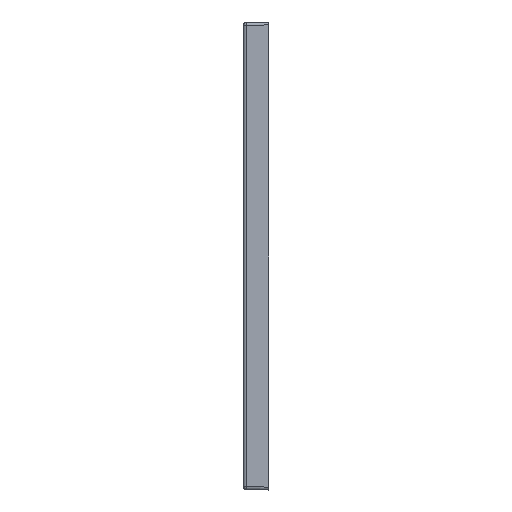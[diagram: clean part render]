
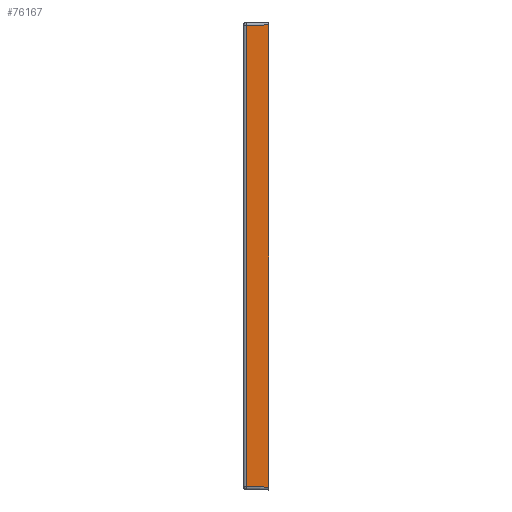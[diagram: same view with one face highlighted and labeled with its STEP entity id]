
A CAD part, left-side view. The second image highlights one B-rep face of the part: STEP entity #76167.
In plain terms, the highlighted planar face has unit normal (-1, 0.018, 0).
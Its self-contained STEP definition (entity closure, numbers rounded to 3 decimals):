
#418 = EDGE_LOOP ( 'NONE', ( #28145, #108340, #21647, #96098 ) ) ;
#2779 = EDGE_CURVE ( 'NONE', #80315, #105835, #44677, .T. ) ;
#9671 = VECTOR ( 'NONE', #15006, 1000. ) ;
#12824 = EDGE_CURVE ( 'NONE', #105835, #86036, #28760, .T. ) ;
#15006 = DIRECTION ( 'NONE',  ( 0., 0., 1. ) ) ;
#18755 = EDGE_CURVE ( 'NONE', #86036, #32925, #24372, .T. ) ;
#21647 = ORIENTED_EDGE ( 'NONE', *, *, #23438, .T. ) ;
#23438 = EDGE_CURVE ( 'NONE', #32925, #80315, #63419, .T. ) ;
#24372 = LINE ( 'NONE', #59562, #38796 ) ;
#27338 = CARTESIAN_POINT ( 'NONE',  ( -500.751, -43., 190.751 ) ) ;
#28145 = ORIENTED_EDGE ( 'NONE', *, *, #12824, .T. ) ;
#28760 = LINE ( 'NONE', #53010, #49385 ) ;
#32925 = VERTEX_POINT ( 'NONE', #108783 ) ;
#38796 = VECTOR ( 'NONE', #57937, 1000. ) ;
#42802 = FACE_OUTER_BOUND ( 'NONE', #418, .T. ) ;
#44677 = LINE ( 'NONE', #53445, #107120 ) ;
#47248 = CARTESIAN_POINT ( 'NONE',  ( -500.086, -4.913, -600.087 ) ) ;
#48898 = DIRECTION ( 'NONE',  ( -1., 0.017, 0. ) ) ;
#49385 = VECTOR ( 'NONE', #54621, 1000. ) ;
#51645 = AXIS2_PLACEMENT_3D ( 'NONE', #99506, #48898, #82479 ) ;
#53010 = CARTESIAN_POINT ( 'NONE',  ( -500.086, -4.913, -605. ) ) ;
#53445 = CARTESIAN_POINT ( 'NONE',  ( -499.758, 13.868, 189.759 ) ) ;
#54621 = DIRECTION ( 'NONE',  ( 0., 0., -1. ) ) ;
#57937 = DIRECTION ( 'NONE',  ( -0.017, -1., -0.017 ) ) ;
#59562 = CARTESIAN_POINT ( 'NONE',  ( -500.002, -0.087, -600.002 ) ) ;
#63419 = LINE ( 'NONE', #81016, #9671 ) ;
#71087 = CARTESIAN_POINT ( 'NONE',  ( -500.086, -4.913, 190.087 ) ) ;
#76167 = ADVANCED_FACE ( 'NONE', ( #42802 ), #90716, .T. ) ;
#80315 = VERTEX_POINT ( 'NONE', #27338 ) ;
#81016 = CARTESIAN_POINT ( 'NONE',  ( -500.751, -43., 195. ) ) ;
#82479 = DIRECTION ( 'NONE',  ( -0.017, -1., 0. ) ) ;
#86036 = VERTEX_POINT ( 'NONE', #47248 ) ;
#90716 = PLANE ( 'NONE',  #51645 ) ;
#95802 = DIRECTION ( 'NONE',  ( 0.017, 1., -0.017 ) ) ;
#96098 = ORIENTED_EDGE ( 'NONE', *, *, #2779, .T. ) ;
#99506 = CARTESIAN_POINT ( 'NONE',  ( -500., 0., -605. ) ) ;
#105835 = VERTEX_POINT ( 'NONE', #71087 ) ;
#107120 = VECTOR ( 'NONE', #95802, 1000. ) ;
#108340 = ORIENTED_EDGE ( 'NONE', *, *, #18755, .T. ) ;
#108783 = CARTESIAN_POINT ( 'NONE',  ( -500.751, -43., -600.751 ) ) ;
